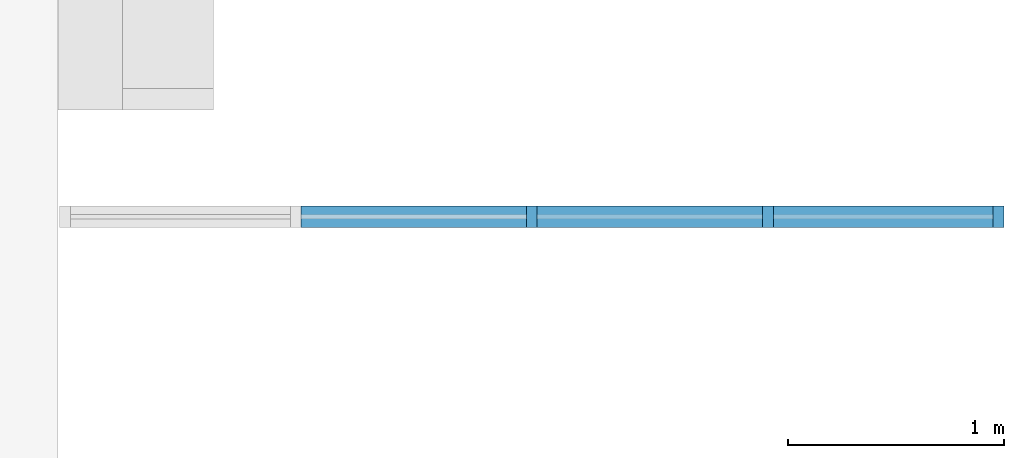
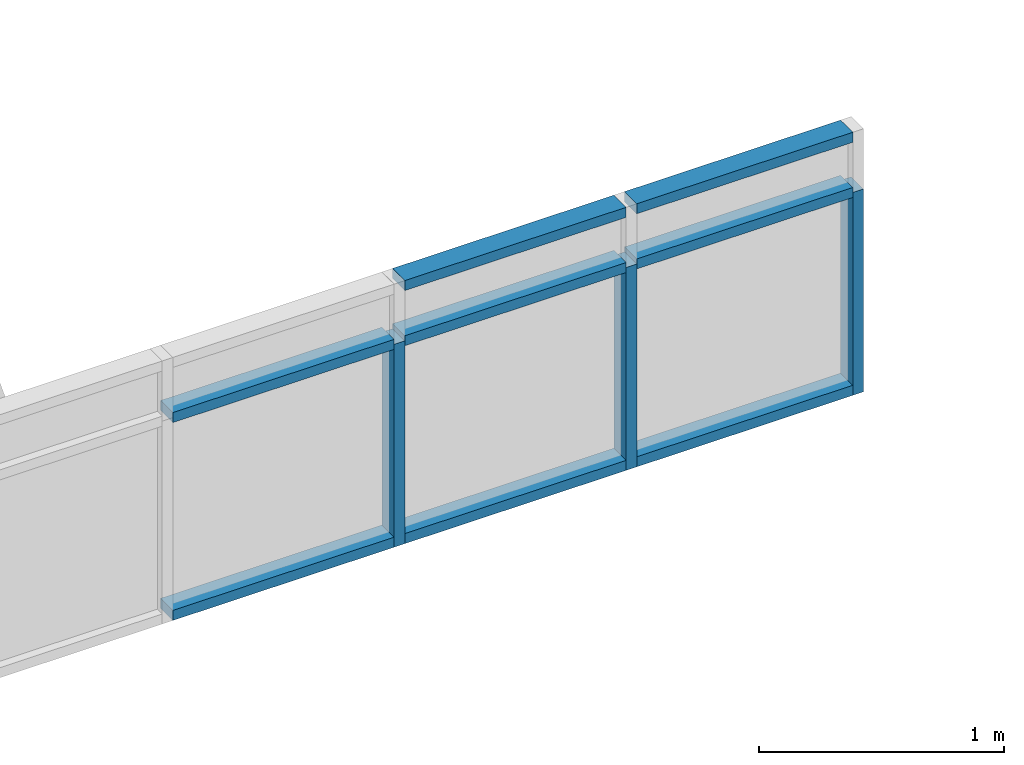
# One storey, part 13 of 153: 11 members, 1 element without a shape of its own.
"""IFC4 building model written with IfcOpenShell, lengths in metres."""

from ifc_helpers import new_model, entity, si_unit, converted_unit, derived_unit, direction, frame, origin, place, context, subcontext, project, spatial, indexed_curve, outline, extrude, source, transform, mapped, material, type_object, type_shapes, element, aggregate, save


model = new_model("IFC4")

# Units and contexts
model_context = context("Model", 3, precision=1e-05, world=origin(), true_north=direction((6.123031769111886e-17, 1.0)))
body_context = subcontext(model_context, "Body", "Model", "MODEL_VIEW")
ifc_project = project(units=[si_unit("LENGTHUNIT", "METRE"), si_unit("AREAUNIT", "SQUARE_METRE"), si_unit("VOLUMEUNIT", "CUBIC_METRE"), converted_unit("PLANEANGLEUNIT", "DEGREE", entity("IfcRatioMeasure", 0.017453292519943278), si_unit("PLANEANGLEUNIT", "RADIAN"), dimensions=[0, 0, 0, 0, 0, 0, 0]), si_unit("MASSUNIT", "GRAM", prefix="KILO"), derived_unit("MASSDENSITYUNIT", [(si_unit("MASSUNIT", "GRAM", prefix="KILO"), 1), (si_unit("LENGTHUNIT", "METRE"), -3)]), derived_unit("MOMENTOFINERTIAUNIT", [(si_unit("LENGTHUNIT", "METRE"), 4)]), si_unit("TIMEUNIT", "SECOND"), si_unit("FREQUENCYUNIT", "HERTZ"), si_unit("THERMODYNAMICTEMPERATUREUNIT", "DEGREE_CELSIUS"), derived_unit("THERMALTRANSMITTANCEUNIT", [(si_unit("MASSUNIT", "GRAM", prefix="KILO"), 1), (si_unit("THERMODYNAMICTEMPERATUREUNIT", "KELVIN"), -1), (si_unit("TIMEUNIT", "SECOND"), -3)]), derived_unit("VOLUMETRICFLOWRATEUNIT", [(si_unit("LENGTHUNIT", "METRE"), 3), (si_unit("TIMEUNIT", "SECOND"), -1)]), derived_unit("MASSFLOWRATEUNIT", [(si_unit("MASSUNIT", "GRAM", prefix="KILO"), 1), (si_unit("TIMEUNIT", "SECOND"), -1)]), derived_unit("ROTATIONALFREQUENCYUNIT", [(si_unit("TIMEUNIT", "SECOND"), -1)]), si_unit("ELECTRICCURRENTUNIT", "AMPERE"), si_unit("ELECTRICVOLTAGEUNIT", "VOLT"), si_unit("POWERUNIT", "WATT"), si_unit("FORCEUNIT", "NEWTON", prefix="KILO"), si_unit("ILLUMINANCEUNIT", "LUX"), si_unit("LUMINOUSFLUXUNIT", "LUMEN"), si_unit("LUMINOUSINTENSITYUNIT", "CANDELA"), derived_unit("USERDEFINED", [(si_unit("MASSUNIT", "GRAM", prefix="KILO"), -1), (si_unit("LENGTHUNIT", "METRE"), -2), (si_unit("TIMEUNIT", "SECOND"), 3), (si_unit("LUMINOUSFLUXUNIT", "LUMEN"), 1)]), derived_unit("SOUNDPOWERUNIT", [(si_unit("MASSUNIT", "GRAM", prefix="KILO"), 1), (si_unit("LENGTHUNIT", "METRE"), 2), (si_unit("TIMEUNIT", "SECOND"), -3)]), derived_unit("SOUNDPRESSUREUNIT", [(si_unit("MASSUNIT", "GRAM", prefix="KILO"), 1), (si_unit("LENGTHUNIT", "METRE"), -1), (si_unit("TIMEUNIT", "SECOND"), -2)]), derived_unit("LINEARVELOCITYUNIT", [(si_unit("LENGTHUNIT", "METRE"), 1), (si_unit("TIMEUNIT", "SECOND"), -1)]), si_unit("PRESSUREUNIT", "PASCAL"), derived_unit("USERDEFINED", [(si_unit("LENGTHUNIT", "METRE"), -2), (si_unit("MASSUNIT", "GRAM", prefix="KILO"), 1), (si_unit("TIMEUNIT", "SECOND"), -2)]), derived_unit("LINEARFORCEUNIT", [(si_unit("MASSUNIT", "GRAM", prefix="KILO"), 1), (si_unit("LENGTHUNIT", "METRE"), 1), (si_unit("TIMEUNIT", "SECOND"), -2), (si_unit("LENGTHUNIT", "METRE"), -1)]), derived_unit("PLANARFORCEUNIT", [(si_unit("MASSUNIT", "GRAM", prefix="KILO"), 1), (si_unit("LENGTHUNIT", "METRE"), 1), (si_unit("TIMEUNIT", "SECOND"), -2), (si_unit("LENGTHUNIT", "METRE"), -2)])], contexts=[model_context])

# Site, building, storey
site_placement = place(None, origin())
site = spatial("IfcSite", under=ifc_project, at=site_placement, Name="Superficie", CompositionType="ELEMENT")
building_placement = place(site_placement, origin())
building = spatial("IfcBuilding", under=site, at=building_placement, CompositionType="ELEMENT")
storey_placement = place(building_placement, frame((0.0, 0.0, 3.5999999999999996)))
storey = spatial("IfcBuildingStorey", under=building, at=storey_placement, Name="Nivel 1", CompositionType="ELEMENT", Elevation=3.5999999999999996)

# Curtain wall, members
curtain_wall_type = type_object("IfcCurtainWallType", Name="Muro cortina:Muro cortina - simple", PredefinedType="NOTDEFINED")
curtain_wall_placement = place(storey_placement, frame((0.0, 0.0, -3.5999999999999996)))
curtain_wall = element("IfcCurtainWall", 1, at=curtain_wall_placement, inside=storey, type_object=curtain_wall_type, Name="Muro cortina:Muro cortina - simple", ObjectType="Muro cortina:Muro cortina - simple", PredefinedType="NOTDEFINED")
ifc_material = material(Name="<Unnamed>")
member_type_1 = type_object("IfcMemberType", Name="Montante rectangular:Montante rectangular - 5 x 10 cm", PredefinedType="MULLION", material=ifc_material)
shared_shape_1 = source(origin(), body_context, "Body", "SweptSolid", [
    extrude(outline(indexed_curve([(-0.05, -0.025), (0.05, -0.025), (0.05, 0.025), (-0.05, 0.025), (-0.05, -0.025)], self_intersect=False)), frame((-0.025, 0.0, -1.0182218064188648), z_axis=(0.0, 0.0, 1.0), x_axis=(0.0, -1.0, 0.0)), (0.0, 0.0, 1.0), 1.0182218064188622),
])
type_shapes(member_type_1, [shared_shape_1])
member_1_placement = place(curtain_wall_placement, frame((24.300114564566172, 3.290829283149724, 4.159999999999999), z_axis=(-1.0, 0.0, 0.0), x_axis=(0.0, 0.0, -1.0)))
member_1 = element("IfcMember", 2, at=member_1_placement, type_object=member_type_1, material=ifc_material, Name="Montante rectangular:Montante rectangular - 5 x 10 cm", ObjectType="Montante rectangular:Montante rectangular - 5 x 10 cm", PredefinedType="MULLION", context=body_context, shape_type="MappedRepresentation", body=[
    mapped(shared_shape_1, transform((0.0, 0.0, 0.0), scale=1.0)),
])
member_type_2 = type_object("IfcMemberType", Name="Montante rectangular:Montante rectangular - 5 x 10 cm", PredefinedType="MULLION", material=ifc_material)
shared_shape_2 = source(origin(), body_context, "Body", "SweptSolid", [
    extrude(outline(indexed_curve([(-0.05, -0.025), (0.05, -0.025), (0.05, 0.025), (-0.05, 0.025), (-0.05, -0.025)], self_intersect=False)), frame((-0.025, 0.0, -1.0107145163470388), z_axis=(0.0, 0.0, 1.0), x_axis=(0.0, -1.0, 0.0)), (0.0, 0.0, 1.0), 1.0107145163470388),
])
type_shapes(member_type_2, [shared_shape_2])
member_2_placement = place(curtain_wall_placement, frame((25.368336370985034, 3.29082928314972, 4.159999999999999), z_axis=(0.0, 0.0, -1.0), x_axis=(1.0, 0.0, 0.0)))
member_2 = element("IfcMember", 3, at=member_2_placement, type_object=member_type_2, material=ifc_material, Name="Montante rectangular:Montante rectangular - 5 x 10 cm", ObjectType="Montante rectangular:Montante rectangular - 5 x 10 cm", PredefinedType="MULLION", context=body_context, shape_type="MappedRepresentation", body=[
    mapped(shared_shape_2, transform((0.0, 0.0, 0.0), scale=1.0)),
])
member_type_3 = type_object("IfcMemberType", Name="Montante rectangular:Montante rectangular - 5 x 10 cm", PredefinedType="MULLION", material=ifc_material)
shared_shape_3 = source(origin(), body_context, "Body", "SweptSolid", [
    extrude(outline(indexed_curve([(-0.05, -0.025), (0.05, -0.025), (0.05, 0.025), (-0.05, 0.025), (-0.05, -0.025)], self_intersect=False)), frame((-0.025, 0.0, -1.0182218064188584), z_axis=(0.0, 0.0, 1.0), x_axis=(0.0, -1.0, 0.0)), (0.0, 0.0, 1.0), 1.0182218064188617),
])
type_shapes(member_type_3, [shared_shape_3])
member_3_placement = place(curtain_wall_placement, frame((25.318336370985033, 3.29082928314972, 5.470714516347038), z_axis=(1.0, 0.0, 0.0), x_axis=(0.0, 0.0, 1.0)))
member_3 = element("IfcMember", 4, at=member_3_placement, type_object=member_type_3, material=ifc_material, Name="Montante rectangular:Montante rectangular - 5 x 10 cm", ObjectType="Montante rectangular:Montante rectangular - 5 x 10 cm", PredefinedType="MULLION", context=body_context, shape_type="MappedRepresentation", body=[
    mapped(shared_shape_3, transform((0.0, 0.0, 0.0), scale=1.0)),
])
member_type_4 = type_object("IfcMemberType", Name="Montante rectangular:Montante rectangular - 5 x 10 cm", PredefinedType="MULLION", material=ifc_material)
shared_shape_4 = source(origin(), body_context, "Body", "SweptSolid", [
    extrude(outline(indexed_curve([(-0.05, -0.025), (0.05, -0.025), (0.05, 0.025), (-0.05, 0.025), (-0.05, -0.025)], self_intersect=False)), frame((-0.025, 0.0, -1.0432218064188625), z_axis=(0.0, 0.0, 1.0), x_axis=(0.0, -1.0, 0.0)), (0.0, 0.0, 1.0), 1.0432218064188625),
])
type_shapes(member_type_4, [shared_shape_4])
member_4_placement = place(curtain_wall_placement, frame((23.20689275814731, 3.2908292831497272, 4.159999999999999), z_axis=(-1.0, 0.0, 0.0), x_axis=(0.0, 0.0, -1.0)))
member_4 = element("IfcMember", 5, at=member_4_placement, type_object=member_type_4, material=ifc_material, Name="Montante rectangular:Montante rectangular - 5 x 10 cm", ObjectType="Montante rectangular:Montante rectangular - 5 x 10 cm", PredefinedType="MULLION", context=body_context, shape_type="MappedRepresentation", body=[
    mapped(shared_shape_4, transform((0.0, 0.0, 0.0), scale=1.0)),
])
member_5_placement = place(curtain_wall_placement, frame((22.11367095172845, 3.290829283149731, 4.159999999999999), z_axis=(-1.0, 0.0, 0.0), x_axis=(0.0, 0.0, -1.0)))
member_5 = element("IfcMember", 6, at=member_5_placement, type_object=member_type_4, material=ifc_material, Name="Montante rectangular:Montante rectangular - 5 x 10 cm", ObjectType="Montante rectangular:Montante rectangular - 5 x 10 cm", PredefinedType="MULLION", context=body_context, shape_type="MappedRepresentation", body=[
    mapped(shared_shape_4, transform((0.0, 0.0, 0.0), scale=1.0)),
])
member_type_5 = type_object("IfcMemberType", Name="Montante rectangular:Montante rectangular - 5 x 10 cm", PredefinedType="MULLION", material=ifc_material)
shared_shape_5 = source(origin(), body_context, "Body", "SweptSolid", [
    extrude(outline(indexed_curve([(-0.05, -0.025), (0.05, -0.025), (0.05, 0.025), (-0.05, 0.025), (-0.05, -0.025)], self_intersect=False)), frame((-0.025, 0.0, -1.0432218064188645), z_axis=(0.0, 0.0, 1.0), x_axis=(0.0, -1.0, 0.0)), (0.0, 0.0, 1.0), 1.0432218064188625),
])
type_shapes(member_type_5, [shared_shape_5])
member_6_placement = place(curtain_wall_placement, frame((24.250114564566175, 3.290829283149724, 5.470714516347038), z_axis=(1.0, 0.0, 0.0), x_axis=(0.0, 0.0, 1.0)))
member_6 = element("IfcMember", 7, at=member_6_placement, type_object=member_type_5, material=ifc_material, Name="Montante rectangular:Montante rectangular - 5 x 10 cm", ObjectType="Montante rectangular:Montante rectangular - 5 x 10 cm", PredefinedType="MULLION", context=body_context, shape_type="MappedRepresentation", body=[
    mapped(shared_shape_5, transform((0.0, 0.0, 0.0), scale=1.0)),
])
member_type_6 = type_object("IfcMemberType", Name="Montante rectangular:Montante rectangular - 5 x 10 cm", PredefinedType="MULLION", material=ifc_material)
shared_shape_6 = source(origin(), body_context, "Body", "SweptSolid", [
    extrude(outline(indexed_curve([(-0.05, -0.025), (0.05, -0.025), (0.05, 0.025), (-0.05, 0.025), (-0.05, -0.025)], self_intersect=False)), frame((0.0, 0.0, -1.0432218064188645), z_axis=(0.0, 0.0, 1.0), x_axis=(0.0, -1.0, 0.0)), (0.0, 0.0, 1.0), 1.0432218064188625),
])
type_shapes(member_type_6, [shared_shape_6])
member_7_placement = place(curtain_wall_placement, frame((23.15689275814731, 3.2908292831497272, 5.170714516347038), z_axis=(1.0, 0.0, 0.0), x_axis=(0.0, 0.0, 1.0)))
member_7 = element("IfcMember", 8, at=member_7_placement, type_object=member_type_6, material=ifc_material, Name="Montante rectangular:Montante rectangular - 5 x 10 cm", ObjectType="Montante rectangular:Montante rectangular - 5 x 10 cm", PredefinedType="MULLION", context=body_context, shape_type="MappedRepresentation", body=[
    mapped(shared_shape_6, transform((0.0, 0.0, 0.0), scale=1.0)),
])
member_8_placement = place(curtain_wall_placement, frame((24.250114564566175, 3.290829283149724, 5.170714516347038), z_axis=(1.0, 0.0, 0.0), x_axis=(0.0, 0.0, 1.0)))
member_8 = element("IfcMember", 9, at=member_8_placement, type_object=member_type_6, material=ifc_material, Name="Montante rectangular:Montante rectangular - 5 x 10 cm", ObjectType="Montante rectangular:Montante rectangular - 5 x 10 cm", PredefinedType="MULLION", context=body_context, shape_type="MappedRepresentation", body=[
    mapped(shared_shape_6, transform((0.0, 0.0, 0.0), scale=1.0)),
])
member_type_7 = type_object("IfcMemberType", Name="Montante rectangular:Montante rectangular - 5 x 10 cm", PredefinedType="MULLION", material=ifc_material)
shared_shape_7 = source(origin(), body_context, "Body", "SweptSolid", [
    extrude(outline(indexed_curve([(-0.05, -0.025), (0.05, -0.025), (0.05, 0.025), (-0.05, 0.025), (-0.05, -0.025)], self_intersect=False)), frame((0.0, 0.0, -1.0182218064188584), z_axis=(0.0, 0.0, 1.0), x_axis=(0.0, -1.0, 0.0)), (0.0, 0.0, 1.0), 1.0182218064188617),
])
type_shapes(member_type_7, [shared_shape_7])
member_9_placement = place(curtain_wall_placement, frame((25.318336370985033, 3.29082928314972, 5.170714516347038), z_axis=(1.0, 0.0, 0.0), x_axis=(0.0, 0.0, 1.0)))
member_9 = element("IfcMember", 10, at=member_9_placement, type_object=member_type_7, material=ifc_material, Name="Montante rectangular:Montante rectangular - 5 x 10 cm", ObjectType="Montante rectangular:Montante rectangular - 5 x 10 cm", PredefinedType="MULLION", context=body_context, shape_type="MappedRepresentation", body=[
    mapped(shared_shape_7, transform((0.0, 0.0, 0.0), scale=1.0)),
])
member_type_8 = type_object("IfcMemberType", Name="Montante rectangular:Montante rectangular - 5 x 10 cm", PredefinedType="MULLION", material=ifc_material)
shared_shape_8 = source(origin(), body_context, "Body", "SweptSolid", [
    extrude(outline(indexed_curve([(-0.05, -0.025), (0.05, -0.025), (0.05, 0.025), (-0.05, 0.025), (-0.05, -0.025)], self_intersect=False)), frame((0.0, 0.0, -1.0107145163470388), z_axis=(0.0, 0.0, 1.0), x_axis=(0.0, -1.0, 0.0)), (0.0, 0.0, 1.0), 1.0107145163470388),
])
type_shapes(member_type_8, [shared_shape_8])
member_10_placement = place(curtain_wall_placement, frame((24.275114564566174, 3.290829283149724, 4.159999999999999), z_axis=(0.0, 0.0, -1.0), x_axis=(1.0, 0.0, 0.0)))
member_10 = element("IfcMember", 11, at=member_10_placement, type_object=member_type_8, material=ifc_material, Name="Montante rectangular:Montante rectangular - 5 x 10 cm", ObjectType="Montante rectangular:Montante rectangular - 5 x 10 cm", PredefinedType="MULLION", context=body_context, shape_type="MappedRepresentation", body=[
    mapped(shared_shape_8, transform((0.0, 0.0, 0.0), scale=1.0)),
])
member_11_placement = place(curtain_wall_placement, frame((23.18189275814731, 3.2908292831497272, 4.159999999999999), z_axis=(0.0, 0.0, -1.0), x_axis=(1.0, 0.0, 0.0)))
member_11 = element("IfcMember", 12, at=member_11_placement, type_object=member_type_8, material=ifc_material, Name="Montante rectangular:Montante rectangular - 5 x 10 cm", ObjectType="Montante rectangular:Montante rectangular - 5 x 10 cm", PredefinedType="MULLION", context=body_context, shape_type="MappedRepresentation", body=[
    mapped(shared_shape_8, transform((0.0, 0.0, 0.0), scale=1.0)),
])
aggregate(curtain_wall, [member_2, member_3, member_4, member_6, member_1, member_5, member_7, member_9, member_8, member_10, member_11])

save(model, "model.ifc")
